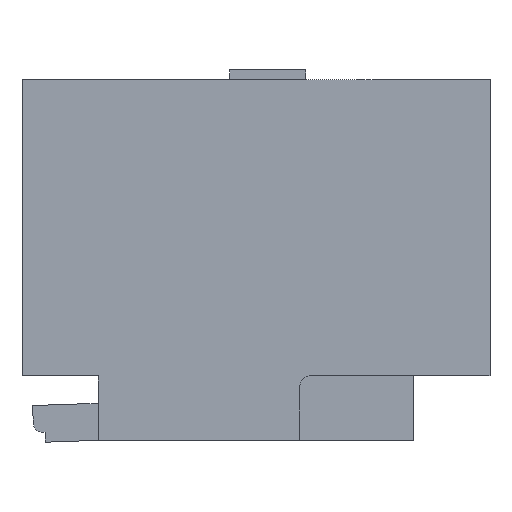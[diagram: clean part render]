
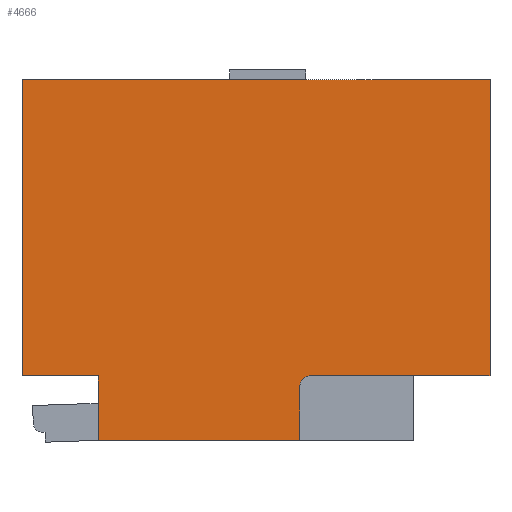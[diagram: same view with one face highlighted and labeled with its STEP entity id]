
A CAD part, left-side view. The second image highlights one B-rep face of the part: STEP entity #4666.
In plain terms, the highlighted planar face has unit normal (-1, 0, 0).
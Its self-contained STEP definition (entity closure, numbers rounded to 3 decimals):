
#507 = VECTOR ( 'NONE', #9557, 1000. ) ;
#680 = LINE ( 'NONE', #9973, #14063 ) ;
#755 = CARTESIAN_POINT ( 'NONE',  ( -11.6, 16.2, 6.6 ) ) ;
#1043 = LINE ( 'NONE', #14190, #11701 ) ;
#1282 = VERTEX_POINT ( 'NONE', #6352 ) ;
#1315 = DIRECTION ( 'NONE',  ( 0., -1., 0. ) ) ;
#1446 = VERTEX_POINT ( 'NONE', #13437 ) ;
#1922 = VERTEX_POINT ( 'NONE', #16784 ) ;
#2059 = VERTEX_POINT ( 'NONE', #755 ) ;
#2146 = CARTESIAN_POINT ( 'NONE',  ( -11.6, -24., 37. ) ) ;
#2660 = CARTESIAN_POINT ( 'NONE',  ( -11.6, 24., 6.6 ) ) ;
#2714 = ORIENTED_EDGE ( 'NONE', *, *, #17071, .T. ) ;
#3451 = EDGE_CURVE ( 'NONE', #14786, #1282, #9471, .T. ) ;
#4206 = ORIENTED_EDGE ( 'NONE', *, *, #17219, .T. ) ;
#4331 = EDGE_CURVE ( 'NONE', #1446, #13662, #12556, .T. ) ;
#4666 = ADVANCED_FACE ( 'NONE', ( #13168 ), #6751, .F. ) ;
#4705 = DIRECTION ( 'NONE',  ( 0., 0., 1. ) ) ;
#4806 = CARTESIAN_POINT ( 'NONE',  ( -11.6, -5.5, 5.6 ) ) ;
#5132 = CARTESIAN_POINT ( 'NONE',  ( -11.6, 24., 6.6 ) ) ;
#5180 = EDGE_CURVE ( 'NONE', #1446, #16831, #1043, .T. ) ;
#5201 = ORIENTED_EDGE ( 'NONE', *, *, #5180, .F. ) ;
#5264 = LINE ( 'NONE', #15321, #15515 ) ;
#5292 = CARTESIAN_POINT ( 'NONE',  ( -11.6, -4.5, 5.6 ) ) ;
#5365 = EDGE_CURVE ( 'NONE', #13662, #2059, #10060, .T. ) ;
#5739 = AXIS2_PLACEMENT_3D ( 'NONE', #4806, #14128, #6160 ) ;
#5747 = LINE ( 'NONE', #17293, #8911 ) ;
#6160 = DIRECTION ( 'NONE',  ( 0., 1., 0. ) ) ;
#6203 = ORIENTED_EDGE ( 'NONE', *, *, #14276, .T. ) ;
#6210 = VERTEX_POINT ( 'NONE', #6999 ) ;
#6352 = CARTESIAN_POINT ( 'NONE',  ( -11.6, -5.5, 6.6 ) ) ;
#6751 = PLANE ( 'NONE',  #10452 ) ;
#6873 = VECTOR ( 'NONE', #14701, 1000. ) ;
#6999 = CARTESIAN_POINT ( 'NONE',  ( -11.6, -16.2, 6.6 ) ) ;
#7003 = EDGE_CURVE ( 'NONE', #16831, #11921, #11082, .T. ) ;
#7138 = VECTOR ( 'NONE', #12829, 1000. ) ;
#7572 = DIRECTION ( 'NONE',  ( 0., -1., 0. ) ) ;
#8010 = CARTESIAN_POINT ( 'NONE',  ( -11.6, -24., 6.6 ) ) ;
#8090 = DIRECTION ( 'NONE',  ( 0., 1., 0. ) ) ;
#8116 = CARTESIAN_POINT ( 'NONE',  ( -11.6, -4.5, 0. ) ) ;
#8164 = CARTESIAN_POINT ( 'NONE',  ( -11.6, 24., 6.6 ) ) ;
#8172 = VERTEX_POINT ( 'NONE', #8116 ) ;
#8530 = ORIENTED_EDGE ( 'NONE', *, *, #3451, .T. ) ;
#8911 = VECTOR ( 'NONE', #1315, 1000. ) ;
#9039 = VECTOR ( 'NONE', #16541, 1000. ) ;
#9471 = CIRCLE ( 'NONE', #5739, 1. ) ;
#9557 = DIRECTION ( 'NONE',  ( 0., 0., -1. ) ) ;
#9841 = EDGE_CURVE ( 'NONE', #8172, #14786, #680, .T. ) ;
#9973 = CARTESIAN_POINT ( 'NONE',  ( -11.6, -4.5, 0. ) ) ;
#10060 = LINE ( 'NONE', #5132, #16711 ) ;
#10412 = LINE ( 'NONE', #2660, #6873 ) ;
#10452 = AXIS2_PLACEMENT_3D ( 'NONE', #12020, #16063, #8090 ) ;
#10951 = CARTESIAN_POINT ( 'NONE',  ( -11.6, 16.2, 37. ) ) ;
#11082 = LINE ( 'NONE', #2146, #7138 ) ;
#11701 = VECTOR ( 'NONE', #7572, 1000. ) ;
#11886 = ORIENTED_EDGE ( 'NONE', *, *, #7003, .F. ) ;
#11921 = VERTEX_POINT ( 'NONE', #8010 ) ;
#12020 = CARTESIAN_POINT ( 'NONE',  ( -11.6, 24., 37. ) ) ;
#12556 = LINE ( 'NONE', #15213, #9039 ) ;
#12622 = EDGE_CURVE ( 'NONE', #1282, #6210, #5264, .T. ) ;
#12829 = DIRECTION ( 'NONE',  ( 0., 0., -1. ) ) ;
#13168 = FACE_OUTER_BOUND ( 'NONE', #13646, .T. ) ;
#13437 = CARTESIAN_POINT ( 'NONE',  ( -11.6, 24., 37. ) ) ;
#13646 = EDGE_LOOP ( 'NONE', ( #2714, #14928, #8530, #15472, #6203, #11886, #5201, #16439, #16956, #4206 ) ) ;
#13662 = VERTEX_POINT ( 'NONE', #8164 ) ;
#13819 = CARTESIAN_POINT ( 'NONE',  ( -11.6, -24., 37. ) ) ;
#14063 = VECTOR ( 'NONE', #4705, 1000. ) ;
#14128 = DIRECTION ( 'NONE',  ( 1., 0., 0. ) ) ;
#14190 = CARTESIAN_POINT ( 'NONE',  ( -11.6, 24., 37. ) ) ;
#14276 = EDGE_CURVE ( 'NONE', #6210, #11921, #10412, .T. ) ;
#14701 = DIRECTION ( 'NONE',  ( 0., -1., 0. ) ) ;
#14728 = LINE ( 'NONE', #10951, #507 ) ;
#14786 = VERTEX_POINT ( 'NONE', #5292 ) ;
#14928 = ORIENTED_EDGE ( 'NONE', *, *, #9841, .T. ) ;
#15213 = CARTESIAN_POINT ( 'NONE',  ( -11.6, 24., 37. ) ) ;
#15321 = CARTESIAN_POINT ( 'NONE',  ( -11.6, -16.2, 6.6 ) ) ;
#15472 = ORIENTED_EDGE ( 'NONE', *, *, #12622, .T. ) ;
#15515 = VECTOR ( 'NONE', #16632, 1000. ) ;
#15823 = DIRECTION ( 'NONE',  ( 0., -1., 0. ) ) ;
#16063 = DIRECTION ( 'NONE',  ( 1., 0., 0. ) ) ;
#16439 = ORIENTED_EDGE ( 'NONE', *, *, #4331, .T. ) ;
#16541 = DIRECTION ( 'NONE',  ( 0., 0., -1. ) ) ;
#16632 = DIRECTION ( 'NONE',  ( 0., -1., 0. ) ) ;
#16711 = VECTOR ( 'NONE', #15823, 1000. ) ;
#16784 = CARTESIAN_POINT ( 'NONE',  ( -11.6, 16.2, 0. ) ) ;
#16831 = VERTEX_POINT ( 'NONE', #13819 ) ;
#16956 = ORIENTED_EDGE ( 'NONE', *, *, #5365, .T. ) ;
#17071 = EDGE_CURVE ( 'NONE', #1922, #8172, #5747, .T. ) ;
#17219 = EDGE_CURVE ( 'NONE', #2059, #1922, #14728, .T. ) ;
#17293 = CARTESIAN_POINT ( 'NONE',  ( -11.6, 24., 0. ) ) ;
